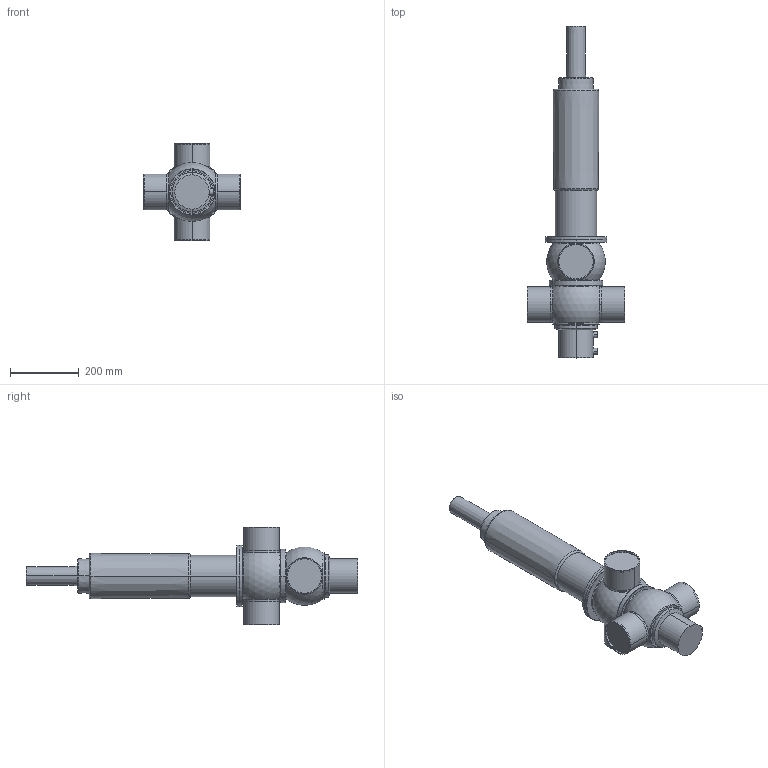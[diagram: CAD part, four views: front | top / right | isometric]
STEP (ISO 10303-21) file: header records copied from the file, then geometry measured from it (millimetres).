
FILE_DESCRIPTION(('Creo Elements/Direct Modeling STEP Export'),'2;1');
FILE_NAME('DA44-100_prox..stp','2019-09-04T15:33:18',(''),(''),'PTC Creo Elements/Direct Modeling STEP processor for AP214 (Solid Model)','PTC Creo Elements/Direct Modeling 19.0B 21-Mar-2015 (C) Parametric Technology GmbH','');
FILE_SCHEMA(('AUTOMOTIVE_DESIGN { 1 0 10303 214 1 1 1 1 }'));
Length unit declared in the file: millimetre
Products named in the file (5): actuator_DA4-125_yoke; D4_Prox._holder.; drain_pipe_92; housing_DA44-100; DA44-100_prox.
Assembly tree (4 placements, depth 2):
  DA44-100_prox.
    housing_DA44-100
    drain_pipe_92
    D4_Prox._holder.
    actuator_DA4-125_yoke
Bounding box: 285 x 968.5 x 285 mm (x, y, z)
Volume: 14327726 mm3; surface area: 638703.7 mm2
Topology: 4 solids, 4 shells, 133 faces, 287 edges, 176 vertices
Faces by surface type: cylinder 48, torus 40, plane 28, cone 12, sphere 5
Entity records: 4171 total; most frequent: CARTESIAN_POINT 1373, DIRECTION 570, ORIENTED_EDGE 570, EDGE_CURVE 285, AXIS2_PLACEMENT_3D 255, VERTEX_POINT 176, EDGE_LOOP 149, FACE_OUTER_BOUND 133
